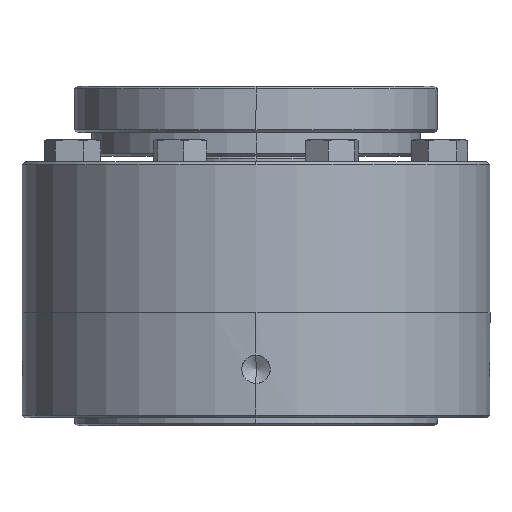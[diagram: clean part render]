
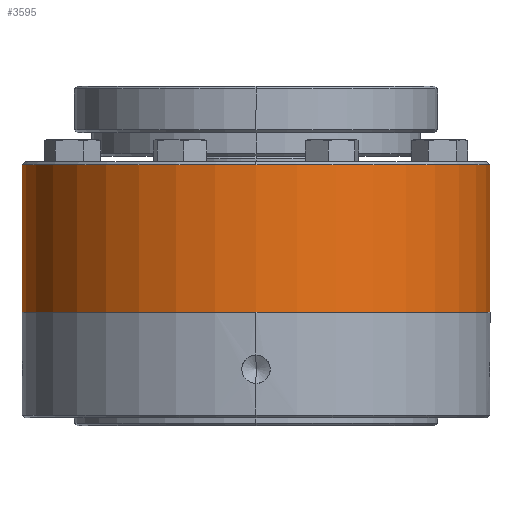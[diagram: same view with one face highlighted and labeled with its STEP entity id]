
A CAD part, left-side view. The second image highlights one B-rep face of the part: STEP entity #3595.
In plain terms, the highlighted cylindrical face has radius 52.375 mm (diameter 104.75 mm), a partial arc.
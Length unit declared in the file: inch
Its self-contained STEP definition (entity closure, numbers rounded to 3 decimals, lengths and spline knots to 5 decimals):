
#163 = VERTEX_POINT ( 'NONE', #1010 ) ;
#208 = EDGE_CURVE ( 'NONE', #7172, #9680, #1111, .T. ) ;
#1010 = CARTESIAN_POINT ( 'NONE',  ( 0., 2.062, -1.33 ) ) ;
#1111 = LINE ( 'NONE', #1112, #1113 ) ;
#1112 = CARTESIAN_POINT ( 'NONE',  ( 0., -2.062, -0.03 ) ) ;
#1113 = VECTOR ( 'NONE', #1114, 39.37008 ) ;
#1114 = DIRECTION ( 'NONE',  ( 0., 0., -1. ) ) ;
#1345 = EDGE_CURVE ( 'NONE', #5442, #163, #2503, .T. ) ;
#2503 = LINE ( 'NONE', #2504, #2505 ) ;
#2504 = CARTESIAN_POINT ( 'NONE',  ( 0., 2.062, -0.03 ) ) ;
#2505 = VECTOR ( 'NONE', #2506, 39.37008 ) ;
#2506 = DIRECTION ( 'NONE',  ( 0., 0., -1. ) ) ;
#2777 = ORIENTED_EDGE ( 'NONE', *, *, #208, .F. ) ;
#3331 = EDGE_LOOP ( 'NONE', ( #2777, #9938, #9754, #9650, #9539 ) ) ;
#3595 = ADVANCED_FACE ( 'NONE', ( #4073 ), #4074, .T. ) ;
#4073 = FACE_OUTER_BOUND ( 'NONE', #3331, .T. ) ;
#4074 = CYLINDRICAL_SURFACE ( 'NONE', #4075, 2.062 ) ;
#4075 = AXIS2_PLACEMENT_3D ( 'NONE', #4076, #4077, #4078 ) ;
#4076 = CARTESIAN_POINT ( 'NONE',  ( 0., 0., -0.03 ) ) ;
#4077 = DIRECTION ( 'NONE',  ( 0., 0., -1. ) ) ;
#4078 = DIRECTION ( 'NONE',  ( 0., 1., 0. ) ) ;
#4253 = VERTEX_POINT ( 'NONE', #4534 ) ;
#4492 = EDGE_CURVE ( 'NONE', #5442, #4253, #4736, .T. ) ;
#4534 = CARTESIAN_POINT ( 'NONE',  ( -2.062, 0., -0.03 ) ) ;
#4736 = CIRCLE ( 'NONE', #4737, 2.062 ) ;
#4737 = AXIS2_PLACEMENT_3D ( 'NONE', #4738, #4739, #4740 ) ;
#4738 = CARTESIAN_POINT ( 'NONE',  ( 0., 0., -0.03 ) ) ;
#4739 = DIRECTION ( 'NONE',  ( 0., 0., 1. ) ) ;
#4740 = DIRECTION ( 'NONE',  ( -1., 0., 0. ) ) ;
#5442 = VERTEX_POINT ( 'NONE', #5533 ) ;
#5533 = CARTESIAN_POINT ( 'NONE',  ( 0., 2.062, -0.03 ) ) ;
#6994 = CARTESIAN_POINT ( 'NONE',  ( 0., -2.062, -0.03 ) ) ;
#7172 = VERTEX_POINT ( 'NONE', #6994 ) ;
#8050 = CIRCLE ( 'NONE', #8051, 2.062 ) ;
#8051 = AXIS2_PLACEMENT_3D ( 'NONE', #8052, #8053, #8054 ) ;
#8052 = CARTESIAN_POINT ( 'NONE',  ( 0., 0., -1.33 ) ) ;
#8053 = DIRECTION ( 'NONE',  ( 0., 0., 1. ) ) ;
#8054 = DIRECTION ( 'NONE',  ( 0., 1., 0. ) ) ;
#8572 = CARTESIAN_POINT ( 'NONE',  ( 0., -2.062, -1.33 ) ) ;
#8992 = CIRCLE ( 'NONE', #8993, 2.062 ) ;
#8993 = AXIS2_PLACEMENT_3D ( 'NONE', #8994, #9002, #9003 ) ;
#8994 = CARTESIAN_POINT ( 'NONE',  ( 0., 0., -0.03 ) ) ;
#9002 = DIRECTION ( 'NONE',  ( 0., 0., 1. ) ) ;
#9003 = DIRECTION ( 'NONE',  ( -1., 0., 0. ) ) ;
#9418 = EDGE_CURVE ( 'NONE', #163, #9680, #8050, .T. ) ;
#9539 = ORIENTED_EDGE ( 'NONE', *, *, #9418, .T. ) ;
#9650 = ORIENTED_EDGE ( 'NONE', *, *, #1345, .T. ) ;
#9680 = VERTEX_POINT ( 'NONE', #8572 ) ;
#9754 = ORIENTED_EDGE ( 'NONE', *, *, #4492, .F. ) ;
#9865 = EDGE_CURVE ( 'NONE', #4253, #7172, #8992, .T. ) ;
#9938 = ORIENTED_EDGE ( 'NONE', *, *, #9865, .F. ) ;
